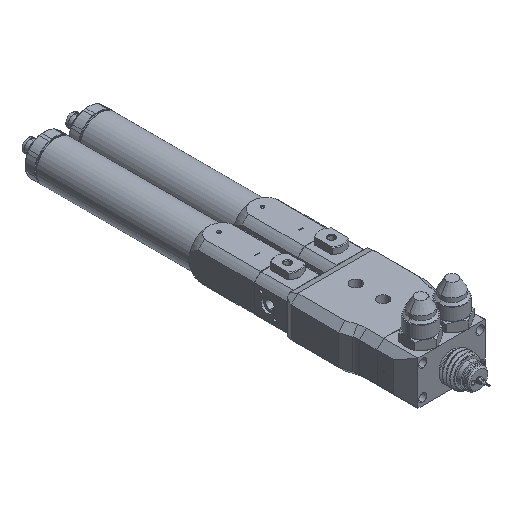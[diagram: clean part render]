
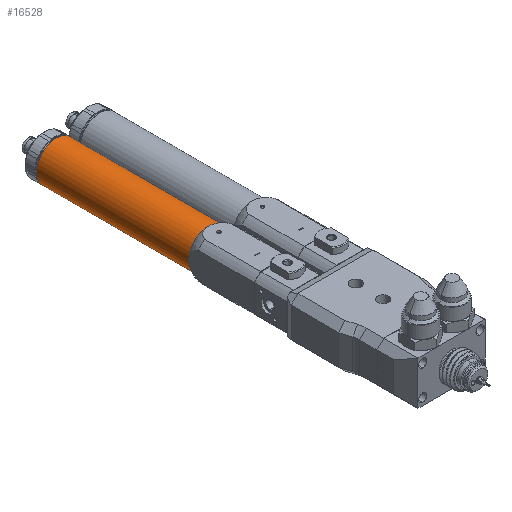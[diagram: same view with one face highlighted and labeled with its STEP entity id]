
A CAD part, isometric view. The second image highlights one B-rep face of the part: STEP entity #16528.
In plain terms, the highlighted cylindrical face has radius 14.5 mm (diameter 29 mm), a full revolution.
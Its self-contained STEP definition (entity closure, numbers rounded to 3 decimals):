
#685 = CIRCLE ( 'NONE', #22434, 14.5 ) ;
#1098 = CARTESIAN_POINT ( 'NONE',  ( -16.989, 27.249, 1013.103 ) ) ;
#1225 = EDGE_CURVE ( 'NONE', #19040, #15380, #25676, .T. ) ;
#2687 = CARTESIAN_POINT ( 'NONE',  ( -2.489, 27.249, 998.603 ) ) ;
#3409 = DIRECTION ( 'NONE',  ( 0., 0., -1. ) ) ;
#4460 = CARTESIAN_POINT ( 'NONE',  ( -16.989, 139.049, 984.103 ) ) ;
#4505 = AXIS2_PLACEMENT_3D ( 'NONE', #30644, #10195, #3409 ) ;
#4961 = CARTESIAN_POINT ( 'NONE',  ( -16.989, 27.249, 998.603 ) ) ;
#5406 = DIRECTION ( 'NONE',  ( 0., 1., 0. ) ) ;
#7770 = DIRECTION ( 'NONE',  ( 0., 1., 0. ) ) ;
#8421 = CARTESIAN_POINT ( 'NONE',  ( -16.989, 139.049, 998.603 ) ) ;
#9675 = EDGE_LOOP ( 'NONE', ( #18347, #18504 ) ) ;
#9685 = DIRECTION ( 'NONE',  ( 0., -1., 0. ) ) ;
#10195 = DIRECTION ( 'NONE',  ( 0., -1., 0. ) ) ;
#10388 = AXIS2_PLACEMENT_3D ( 'NONE', #24493, #9685, #21547 ) ;
#10672 = CARTESIAN_POINT ( 'NONE',  ( -16.989, 27.249, 998.603 ) ) ;
#10803 = DIRECTION ( 'NONE',  ( 0., 0., -1. ) ) ;
#11001 = AXIS2_PLACEMENT_3D ( 'NONE', #4961, #25780, #10803 ) ;
#11151 = CARTESIAN_POINT ( 'NONE',  ( -16.989, 139.049, 1013.103 ) ) ;
#12107 = EDGE_CURVE ( 'NONE', #15380, #19040, #27514, .T. ) ;
#14481 = EDGE_CURVE ( 'NONE', #21732, #14795, #30577, .T. ) ;
#14795 = VERTEX_POINT ( 'NONE', #1098 ) ;
#14843 = CARTESIAN_POINT ( 'NONE',  ( -16.989, 27.249, 984.103 ) ) ;
#15380 = VERTEX_POINT ( 'NONE', #11151 ) ;
#16187 = EDGE_CURVE ( 'NONE', #33160, #21732, #21542, .T. ) ;
#16528 = ADVANCED_FACE ( 'NONE', ( #29749, #33430 ), #21734, .T. ) ;
#17422 = ORIENTED_EDGE ( 'NONE', *, *, #14481, .T. ) ;
#18145 = AXIS2_PLACEMENT_3D ( 'NONE', #10672, #7770, #26233 ) ;
#18347 = ORIENTED_EDGE ( 'NONE', *, *, #12107, .T. ) ;
#18504 = ORIENTED_EDGE ( 'NONE', *, *, #1225, .T. ) ;
#19040 = VERTEX_POINT ( 'NONE', #4460 ) ;
#20286 = DIRECTION ( 'NONE',  ( 0., 0., -1. ) ) ;
#20439 = VERTEX_POINT ( 'NONE', #2687 ) ;
#21336 = ORIENTED_EDGE ( 'NONE', *, *, #22567, .T. ) ;
#21542 = CIRCLE ( 'NONE', #11001, 14.5 ) ;
#21547 = DIRECTION ( 'NONE',  ( 0., 0., -1. ) ) ;
#21732 = VERTEX_POINT ( 'NONE', #38417 ) ;
#21734 = CYLINDRICAL_SURFACE ( 'NONE', #10388, 14.5 ) ;
#22065 = ORIENTED_EDGE ( 'NONE', *, *, #34694, .T. ) ;
#22434 = AXIS2_PLACEMENT_3D ( 'NONE', #34983, #5406, #31863 ) ;
#22567 = EDGE_CURVE ( 'NONE', #14795, #20439, #685, .T. ) ;
#23715 = ORIENTED_EDGE ( 'NONE', *, *, #16187, .T. ) ;
#24493 = CARTESIAN_POINT ( 'NONE',  ( -16.989, 23.312, 998.603 ) ) ;
#25343 = DIRECTION ( 'NONE',  ( 0., 0., -1. ) ) ;
#25655 = AXIS2_PLACEMENT_3D ( 'NONE', #37022, #28086, #25343 ) ;
#25676 = CIRCLE ( 'NONE', #38121, 14.5 ) ;
#25780 = DIRECTION ( 'NONE',  ( 0., 1., 0. ) ) ;
#26233 = DIRECTION ( 'NONE',  ( 0., 0., -1. ) ) ;
#27514 = CIRCLE ( 'NONE', #4505, 14.5 ) ;
#28086 = DIRECTION ( 'NONE',  ( 0., 1., 0. ) ) ;
#29749 = FACE_OUTER_BOUND ( 'NONE', #32218, .T. ) ;
#30577 = CIRCLE ( 'NONE', #18145, 14.5 ) ;
#30644 = CARTESIAN_POINT ( 'NONE',  ( -16.989, 139.049, 998.603 ) ) ;
#31863 = DIRECTION ( 'NONE',  ( 0., 0., -1. ) ) ;
#32218 = EDGE_LOOP ( 'NONE', ( #22065, #23715, #17422, #21336 ) ) ;
#33160 = VERTEX_POINT ( 'NONE', #14843 ) ;
#33430 = FACE_OUTER_BOUND ( 'NONE', #9675, .T. ) ;
#33738 = CIRCLE ( 'NONE', #25655, 14.5 ) ;
#34694 = EDGE_CURVE ( 'NONE', #20439, #33160, #33738, .T. ) ;
#34983 = CARTESIAN_POINT ( 'NONE',  ( -16.989, 27.249, 998.603 ) ) ;
#35093 = DIRECTION ( 'NONE',  ( 0., -1., 0. ) ) ;
#37022 = CARTESIAN_POINT ( 'NONE',  ( -16.989, 27.249, 998.603 ) ) ;
#38121 = AXIS2_PLACEMENT_3D ( 'NONE', #8421, #35093, #20286 ) ;
#38417 = CARTESIAN_POINT ( 'NONE',  ( -31.489, 27.249, 998.603 ) ) ;
